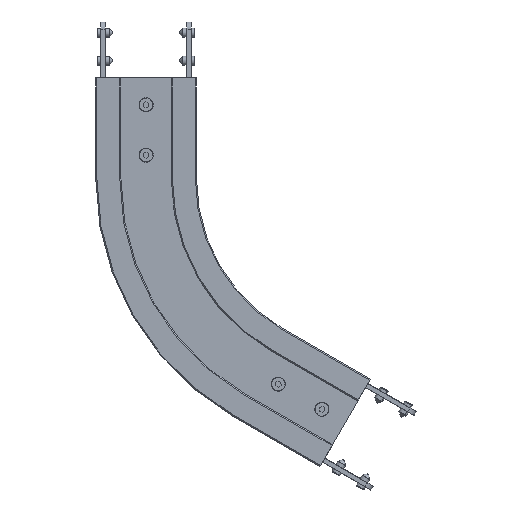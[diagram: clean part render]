
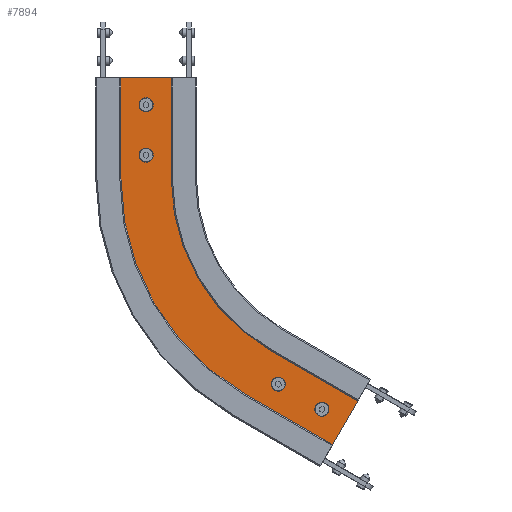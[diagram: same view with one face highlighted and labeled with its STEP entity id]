
A CAD part, front view. The second image highlights one B-rep face of the part: STEP entity #7894.
In plain terms, the highlighted planar face has unit normal (0, -1, 0) as drawn and (0, 1, 0) by its records, which use the part's own axes.
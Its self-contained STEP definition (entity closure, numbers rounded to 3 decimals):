
#83 = CARTESIAN_POINT ( 'NONE',  ( 200., 10.5, -90. ) ) ;
#454 = CARTESIAN_POINT ( 'NONE',  ( -35., 10.5, 0. ) ) ;
#512 = CARTESIAN_POINT ( 'NONE',  ( 157.158, 10.5, -296.205 ) ) ;
#591 = ORIENTED_EDGE ( 'NONE', *, *, #12342, .F. ) ;
#685 = VERTEX_POINT ( 'NONE', #5389 ) ;
#795 = FACE_BOUND ( 'NONE', #3016, .T. ) ;
#812 = EDGE_CURVE ( 'NONE', #7273, #8630, #10903, .T. ) ;
#982 = VERTEX_POINT ( 'NONE', #8646 ) ;
#993 = CARTESIAN_POINT ( 'NONE',  ( -35., 10.5, 0. ) ) ;
#1001 = CARTESIAN_POINT ( 'NONE',  ( 82.5, 10.5, -293.516 ) ) ;
#1040 = ORIENTED_EDGE ( 'NONE', *, *, #3638, .T. ) ;
#1161 = LINE ( 'NONE', #9840, #6344 ) ;
#1349 = EDGE_CURVE ( 'NONE', #9079, #982, #1161, .T. ) ;
#1594 = CARTESIAN_POINT ( 'NONE',  ( 118.187, 10.5, -273.705 ) ) ;
#1753 = CARTESIAN_POINT ( 'NONE',  ( 0., 10.5, -24. ) ) ;
#1775 = AXIS2_PLACEMENT_3D ( 'NONE', #5833, #9245, #4811 ) ;
#1780 = EDGE_CURVE ( 'NONE', #13257, #3096, #10364, .T. ) ;
#1786 = CARTESIAN_POINT ( 'NONE',  ( 35., 10.5, -90. ) ) ;
#1985 = ORIENTED_EDGE ( 'NONE', *, *, #7360, .T. ) ;
#2005 = FACE_BOUND ( 'NONE', #4950, .T. ) ;
#2047 = CARTESIAN_POINT ( 'NONE',  ( 118.187, 10.5, -267.405 ) ) ;
#2129 = VERTEX_POINT ( 'NONE', #11094 ) ;
#2206 = LINE ( 'NONE', #9103, #5684 ) ;
#2245 = DIRECTION ( 'NONE',  ( 0., 0., 1. ) ) ;
#2315 = CARTESIAN_POINT ( 'NONE',  ( 195.442, 10.5, -277.894 ) ) ;
#2332 = EDGE_CURVE ( 'NONE', #4647, #13506, #9291, .T. ) ;
#2343 = CARTESIAN_POINT ( 'NONE',  ( 0., 10.5, -69. ) ) ;
#2364 = CIRCLE ( 'NONE', #8708, 6.3 ) ;
#2472 = ORIENTED_EDGE ( 'NONE', *, *, #812, .F. ) ;
#2803 = CARTESIAN_POINT ( 'NONE',  ( 118.187, 10.5, -280.005 ) ) ;
#2883 = DIRECTION ( 'NONE',  ( 0., 1., 0. ) ) ;
#2893 = CARTESIAN_POINT ( 'NONE',  ( 35., 10.5, 0. ) ) ;
#2917 = CIRCLE ( 'NONE', #6325, 6.3 ) ;
#2936 = ORIENTED_EDGE ( 'NONE', *, *, #6322, .F. ) ;
#3016 = EDGE_LOOP ( 'NONE', ( #2472, #2936 ) ) ;
#3096 = VERTEX_POINT ( 'NONE', #8947 ) ;
#3270 = DIRECTION ( 'NONE',  ( 0., 1., 0. ) ) ;
#3316 = DIRECTION ( 'NONE',  ( 0., 1., 0. ) ) ;
#3638 = EDGE_CURVE ( 'NONE', #12723, #13506, #8714, .T. ) ;
#3694 = CARTESIAN_POINT ( 'NONE',  ( 0., 10.5, -75.3 ) ) ;
#3815 = DIRECTION ( 'NONE',  ( 0., 1., 0. ) ) ;
#4015 = DIRECTION ( 'NONE',  ( 0., -1., 0. ) ) ;
#4047 = ORIENTED_EDGE ( 'NONE', *, *, #2332, .F. ) ;
#4089 = ORIENTED_EDGE ( 'NONE', *, *, #9915, .F. ) ;
#4361 = CARTESIAN_POINT ( 'NONE',  ( 82.5, 10.5, -293.516 ) ) ;
#4424 = DIRECTION ( 'NONE',  ( 0., 0., 1. ) ) ;
#4433 = DIRECTION ( 'NONE',  ( -0.5, 0., -0.866 ) ) ;
#4481 = CIRCLE ( 'NONE', #11089, 6.3 ) ;
#4568 = CARTESIAN_POINT ( 'NONE',  ( 118.187, 10.5, -273.705 ) ) ;
#4647 = VERTEX_POINT ( 'NONE', #2893 ) ;
#4811 = DIRECTION ( 'NONE',  ( 0., 0., 1. ) ) ;
#4888 = VECTOR ( 'NONE', #10589, 1000. ) ;
#4950 = EDGE_LOOP ( 'NONE', ( #10203, #7560 ) ) ;
#5081 = ORIENTED_EDGE ( 'NONE', *, *, #6374, .F. ) ;
#5180 = ORIENTED_EDGE ( 'NONE', *, *, #10606, .F. ) ;
#5184 = EDGE_CURVE ( 'NONE', #9757, #7553, #6761, .T. ) ;
#5289 = ORIENTED_EDGE ( 'NONE', *, *, #1349, .T. ) ;
#5389 = CARTESIAN_POINT ( 'NONE',  ( 157.158, 10.5, -302.505 ) ) ;
#5655 = FACE_BOUND ( 'NONE', #8957, .T. ) ;
#5681 = CARTESIAN_POINT ( 'NONE',  ( -35., 10.5, -90. ) ) ;
#5684 = VECTOR ( 'NONE', #6819, 1000. ) ;
#5833 = CARTESIAN_POINT ( 'NONE',  ( 0., 10.5, -69. ) ) ;
#5992 = DIRECTION ( 'NONE',  ( 0., 0., 1. ) ) ;
#6073 = AXIS2_PLACEMENT_3D ( 'NONE', #1594, #10540, #5992 ) ;
#6322 = EDGE_CURVE ( 'NONE', #8630, #7273, #10739, .T. ) ;
#6325 = AXIS2_PLACEMENT_3D ( 'NONE', #512, #9202, #13680 ) ;
#6344 = VECTOR ( 'NONE', #4433, 1000. ) ;
#6374 = EDGE_CURVE ( 'NONE', #685, #11679, #12155, .T. ) ;
#6632 = VECTOR ( 'NONE', #14157, 1000. ) ;
#6646 = EDGE_CURVE ( 'NONE', #13586, #2129, #13185, .T. ) ;
#6709 = PLANE ( 'NONE',  #12704 ) ;
#6761 = CIRCLE ( 'NONE', #1775, 6.3 ) ;
#6819 = DIRECTION ( 'NONE',  ( 0., 0., 1. ) ) ;
#7273 = VERTEX_POINT ( 'NONE', #2047 ) ;
#7360 = EDGE_CURVE ( 'NONE', #2129, #9079, #7767, .T. ) ;
#7396 = ORIENTED_EDGE ( 'NONE', *, *, #6646, .T. ) ;
#7553 = VERTEX_POINT ( 'NONE', #14042 ) ;
#7560 = ORIENTED_EDGE ( 'NONE', *, *, #12512, .F. ) ;
#7767 = LINE ( 'NONE', #8942, #13856 ) ;
#7845 = DIRECTION ( 'NONE',  ( 0., -1., 0. ) ) ;
#7894 = ADVANCED_FACE ( 'NONE', ( #2005, #5655, #795, #13486, #12271 ), #6709, .T. ) ;
#7899 = DIRECTION ( 'NONE',  ( 0., 0., -1. ) ) ;
#7947 = EDGE_CURVE ( 'NONE', #7553, #9757, #2364, .T. ) ;
#7956 = ORIENTED_EDGE ( 'NONE', *, *, #7947, .F. ) ;
#7981 = AXIS2_PLACEMENT_3D ( 'NONE', #4568, #8939, #11276 ) ;
#8630 = VERTEX_POINT ( 'NONE', #2803 ) ;
#8646 = CARTESIAN_POINT ( 'NONE',  ( 160.442, 10.5, -338.516 ) ) ;
#8708 = AXIS2_PLACEMENT_3D ( 'NONE', #2343, #3316, #4424 ) ;
#8714 = LINE ( 'NONE', #12669, #4888 ) ;
#8900 = CIRCLE ( 'NONE', #13925, 235. ) ;
#8939 = DIRECTION ( 'NONE',  ( 0., 1., 0. ) ) ;
#8942 = CARTESIAN_POINT ( 'NONE',  ( 117.5, 10.5, -232.894 ) ) ;
#8947 = CARTESIAN_POINT ( 'NONE',  ( 0., 10.5, -30.3 ) ) ;
#8957 = EDGE_LOOP ( 'NONE', ( #7956, #13995 ) ) ;
#9079 = VERTEX_POINT ( 'NONE', #2315 ) ;
#9103 = CARTESIAN_POINT ( 'NONE',  ( 35., 10.5, -90. ) ) ;
#9104 = AXIS2_PLACEMENT_3D ( 'NONE', #11207, #12413, #12316 ) ;
#9202 = DIRECTION ( 'NONE',  ( 0., 1., 0. ) ) ;
#9245 = DIRECTION ( 'NONE',  ( 0., 1., 0. ) ) ;
#9291 = LINE ( 'NONE', #993, #12932 ) ;
#9406 = CARTESIAN_POINT ( 'NONE',  ( 157.158, 10.5, -296.205 ) ) ;
#9577 = LINE ( 'NONE', #1001, #6632 ) ;
#9757 = VERTEX_POINT ( 'NONE', #3694 ) ;
#9840 = CARTESIAN_POINT ( 'NONE',  ( 160.442, 10.5, -338.516 ) ) ;
#9915 = EDGE_CURVE ( 'NONE', #12723, #10145, #8900, .T. ) ;
#10036 = DIRECTION ( 'NONE',  ( -1., 0., 0. ) ) ;
#10109 = AXIS2_PLACEMENT_3D ( 'NONE', #9406, #3815, #12713 ) ;
#10145 = VERTEX_POINT ( 'NONE', #4361 ) ;
#10203 = ORIENTED_EDGE ( 'NONE', *, *, #1780, .F. ) ;
#10315 = CARTESIAN_POINT ( 'NONE',  ( 0., 10.5, -17.7 ) ) ;
#10364 = CIRCLE ( 'NONE', #9104, 6.3 ) ;
#10451 = EDGE_LOOP ( 'NONE', ( #4047, #591, #7396, #1985, #5289, #5180, #4089, #1040 ) ) ;
#10540 = DIRECTION ( 'NONE',  ( 0., 1., 0. ) ) ;
#10569 = AXIS2_PLACEMENT_3D ( 'NONE', #83, #7845, #7899 ) ;
#10570 = DIRECTION ( 'NONE',  ( 0., 0., 1. ) ) ;
#10589 = DIRECTION ( 'NONE',  ( 0., 0., 1. ) ) ;
#10606 = EDGE_CURVE ( 'NONE', #10145, #982, #9577, .T. ) ;
#10739 = CIRCLE ( 'NONE', #6073, 6.3 ) ;
#10903 = CIRCLE ( 'NONE', #7981, 6.3 ) ;
#10933 = CARTESIAN_POINT ( 'NONE',  ( -35., 10.5, -90. ) ) ;
#11089 = AXIS2_PLACEMENT_3D ( 'NONE', #1753, #2883, #10570 ) ;
#11094 = CARTESIAN_POINT ( 'NONE',  ( 117.5, 10.5, -232.894 ) ) ;
#11207 = CARTESIAN_POINT ( 'NONE',  ( 0., 10.5, -24. ) ) ;
#11276 = DIRECTION ( 'NONE',  ( 0., 0., 1. ) ) ;
#11679 = VERTEX_POINT ( 'NONE', #12037 ) ;
#11755 = ORIENTED_EDGE ( 'NONE', *, *, #12453, .F. ) ;
#11801 = DIRECTION ( 'NONE',  ( 0., 0., -1. ) ) ;
#12037 = CARTESIAN_POINT ( 'NONE',  ( 157.158, 10.5, -289.905 ) ) ;
#12155 = CIRCLE ( 'NONE', #10109, 6.3 ) ;
#12271 = FACE_OUTER_BOUND ( 'NONE', #10451, .T. ) ;
#12293 = DIRECTION ( 'NONE',  ( 0.866, 0., -0.5 ) ) ;
#12316 = DIRECTION ( 'NONE',  ( 0., 0., 1. ) ) ;
#12342 = EDGE_CURVE ( 'NONE', #13586, #4647, #2206, .T. ) ;
#12413 = DIRECTION ( 'NONE',  ( 0., 1., 0. ) ) ;
#12453 = EDGE_CURVE ( 'NONE', #11679, #685, #2917, .T. ) ;
#12512 = EDGE_CURVE ( 'NONE', #3096, #13257, #4481, .T. ) ;
#12557 = EDGE_LOOP ( 'NONE', ( #11755, #5081 ) ) ;
#12669 = CARTESIAN_POINT ( 'NONE',  ( -35., 10.5, -90. ) ) ;
#12704 = AXIS2_PLACEMENT_3D ( 'NONE', #5681, #3270, #2245 ) ;
#12713 = DIRECTION ( 'NONE',  ( 0., 0., 1. ) ) ;
#12723 = VERTEX_POINT ( 'NONE', #10933 ) ;
#12866 = CARTESIAN_POINT ( 'NONE',  ( 200., 10.5, -90. ) ) ;
#12932 = VECTOR ( 'NONE', #10036, 1000. ) ;
#13185 = CIRCLE ( 'NONE', #10569, 165. ) ;
#13257 = VERTEX_POINT ( 'NONE', #10315 ) ;
#13486 = FACE_BOUND ( 'NONE', #12557, .T. ) ;
#13506 = VERTEX_POINT ( 'NONE', #454 ) ;
#13586 = VERTEX_POINT ( 'NONE', #1786 ) ;
#13680 = DIRECTION ( 'NONE',  ( 0., 0., 1. ) ) ;
#13856 = VECTOR ( 'NONE', #12293, 1000. ) ;
#13925 = AXIS2_PLACEMENT_3D ( 'NONE', #12866, #4015, #11801 ) ;
#13995 = ORIENTED_EDGE ( 'NONE', *, *, #5184, .F. ) ;
#14042 = CARTESIAN_POINT ( 'NONE',  ( 0., 10.5, -62.7 ) ) ;
#14157 = DIRECTION ( 'NONE',  ( 0.866, 0., -0.5 ) ) ;
